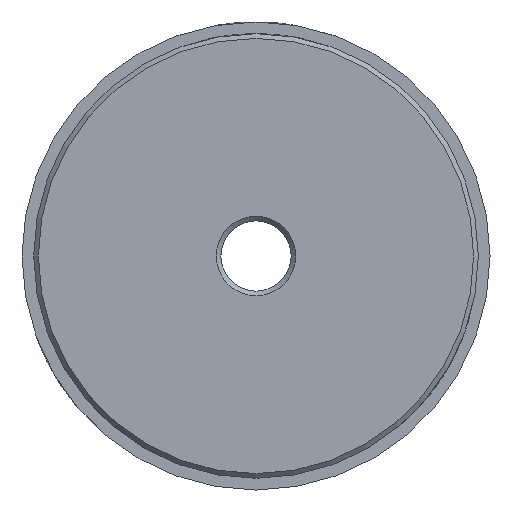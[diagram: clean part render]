
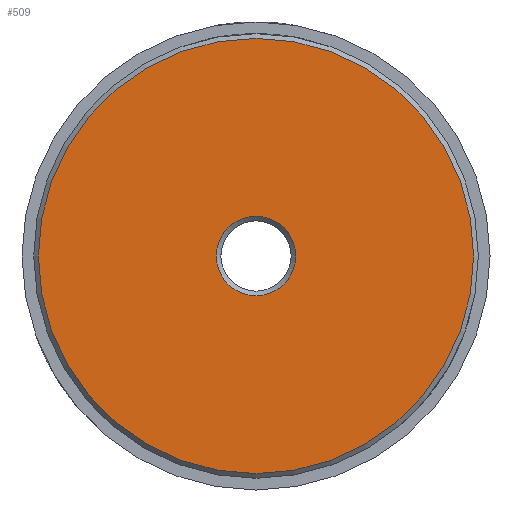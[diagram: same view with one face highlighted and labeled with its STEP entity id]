
A CAD part, left-side view. The second image highlights one B-rep face of the part: STEP entity #509.
In plain terms, the highlighted planar face has unit normal (-1, 0, 0).
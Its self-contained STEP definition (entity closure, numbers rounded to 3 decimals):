
#509 = ADVANCED_FACE( 'NONE', ( #1035, #1036 ), #1037, .F. );
#1035 = FACE_OUTER_BOUND( '', #1550, .T. );
#1036 = FACE_BOUND( '', #1551, .T. );
#1037 = PLANE( '', #1552 );
#1550 = EDGE_LOOP( '', ( #2471 ) );
#1551 = EDGE_LOOP( '', ( #2472 ) );
#1552 = AXIS2_PLACEMENT_3D( '', #2473, #2474, #2475 );
#2471 = ORIENTED_EDGE( '', *, *, #2892, .T. );
#2472 = ORIENTED_EDGE( '', *, *, #2780, .T. );
#2473 = CARTESIAN_POINT( '', ( 0., 9.5, 0. ) );
#2474 = DIRECTION( '', ( 1., 0., 0. ) );
#2475 = DIRECTION( '', ( 0., 1., 0. ) );
#2780 = EDGE_CURVE( 'NONE', #3256, #3256, #3257, .T. );
#2892 = EDGE_CURVE( 'NONE', #3413, #3413, #3414, .F. );
#3256 = VERTEX_POINT( '', #4221 );
#3257 = CIRCLE( '', #4222, 1.7 );
#3413 = VERTEX_POINT( '', #4414 );
#3414 = CIRCLE( '', #4415, 9.3 );
#4221 = CARTESIAN_POINT( '', ( 0., 0., -1.7 ) );
#4222 = AXIS2_PLACEMENT_3D( '', #4833, #4834, #4835 );
#4414 = CARTESIAN_POINT( '', ( 0., 0., -9.3 ) );
#4415 = AXIS2_PLACEMENT_3D( '', #4980, #4981, #4982 );
#4833 = CARTESIAN_POINT( '', ( 0., 0., 0. ) );
#4834 = DIRECTION( '', ( 1., 0., 0. ) );
#4835 = DIRECTION( '', ( 0., 0., -1. ) );
#4980 = CARTESIAN_POINT( '', ( 0., 0., 0. ) );
#4981 = DIRECTION( '', ( 1., 0., 0. ) );
#4982 = DIRECTION( '', ( 0., 0., -1. ) );
